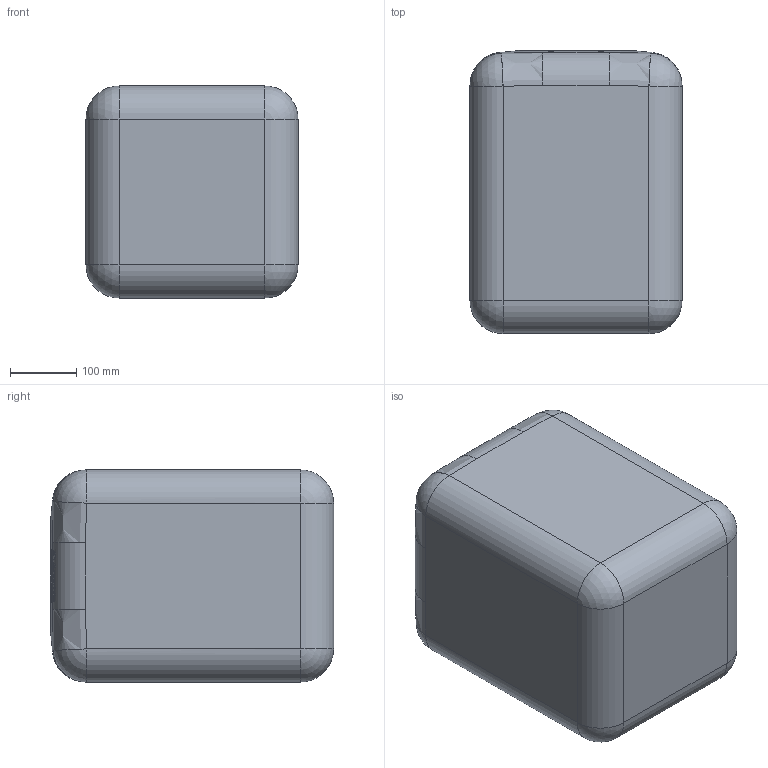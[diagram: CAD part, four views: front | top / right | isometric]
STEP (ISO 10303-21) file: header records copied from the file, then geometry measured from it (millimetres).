
FILE_DESCRIPTION (( 'STEP AP203' ), '1' );
FILE_NAME ('005922_B.STEP', '2024-09-23T13:52:56', ( '' ), ( '' ), 'SwSTEP 2.0', 'SolidWorks 2023', '' );
FILE_SCHEMA (( 'CONFIG_CONTROL_DESIGN' ));
Length unit declared in the file: millimetre
Products named in the file (1): 005922_B
Bounding box: 320 x 427.5 x 320 mm (x, y, z)
Surface area: 1235541.2 mm2 (no closed solid volume)
Topology: 0 solids, 2 shells, 443 faces, 1094 edges, 694 vertices
Faces by surface type: plane 180, bspline 176, cylinder 67, sphere 20
Entity records: 19725 total; most frequent: CARTESIAN_POINT 10557, ORIENTED_EDGE 2156, DIRECTION 1358, EDGE_CURVE 1086, VERTEX_POINT 694, LINE 562, VECTOR 562, EDGE_LOOP 491
